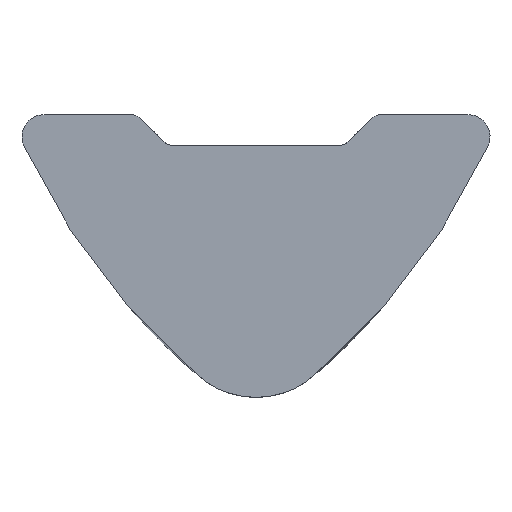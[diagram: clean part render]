
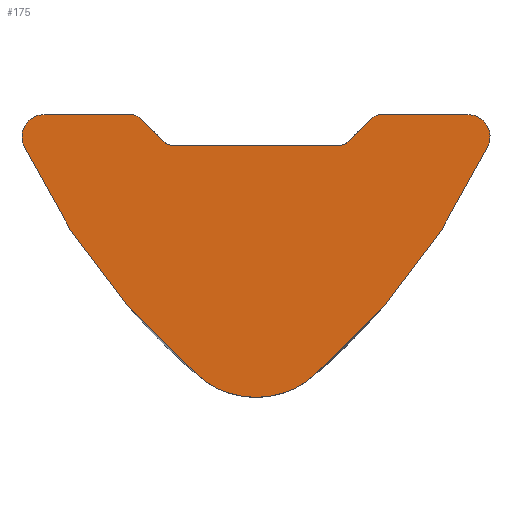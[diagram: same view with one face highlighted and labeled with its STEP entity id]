
A CAD part, front view. The second image highlights one B-rep face of the part: STEP entity #175.
In plain terms, the highlighted planar face has unit normal (0, -1, 0).
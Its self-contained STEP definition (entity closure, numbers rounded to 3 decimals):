
#131 = EDGE_CURVE( '', #337, #338, #339, .F. );
#145 = EDGE_CURVE( '', #361, #362, #363, .T. );
#151 = EDGE_CURVE( '', #372, #373, #374, .F. );
#153 = EDGE_CURVE( '', #338, #376, #377, .T. );
#155 = EDGE_CURVE( '', #362, #379, #380, .T. );
#175 = ADVANCED_FACE( '', ( #409 ), #410, .T. );
#181 = EDGE_CURVE( '', #376, #395, #418, .F. );
#183 = EDGE_CURVE( '', #395, #352, #420, .T. );
#193 = EDGE_CURVE( '', #379, #434, #435, .T. );
#197 = EDGE_CURVE( '', #440, #372, #441, .F. );
#207 = EDGE_CURVE( '', #373, #337, #454, .F. );
#209 = EDGE_CURVE( '', #352, #361, #456, .T. );
#229 = EDGE_CURVE( '', #467, #440, #486, .F. );
#231 = EDGE_CURVE( '', #434, #488, #489, .F. );
#247 = EDGE_CURVE( '', #488, #345, #508, .T. );
#263 = EDGE_CURVE( '', #345, #467, #524, .F. );
#337 = VERTEX_POINT( '', #598 );
#338 = VERTEX_POINT( '', #599 );
#339 = CIRCLE( '', #600, 0.5 );
#345 = VERTEX_POINT( '', #607 );
#352 = VERTEX_POINT( '', #616 );
#361 = VERTEX_POINT( '', #651 );
#362 = VERTEX_POINT( '', #652 );
#363 = LINE( '', #653, #654 );
#372 = VERTEX_POINT( '', #674 );
#373 = VERTEX_POINT( '', #675 );
#374 = CIRCLE( '', #676, 2. );
#376 = VERTEX_POINT( '', #679 );
#377 = LINE( '', #680, #681 );
#379 = VERTEX_POINT( '', #684 );
#380 = CIRCLE( '', #685, 0.3 );
#395 = VERTEX_POINT( '', #705 );
#409 = FACE_OUTER_BOUND( '', #734, .T. );
#410 = PLANE( '', #735 );
#418 = CIRCLE( '', #747, 0.3 );
#420 = LINE( '', #750, #751 );
#434 = VERTEX_POINT( '', #770 );
#435 = LINE( '', #771, #772 );
#440 = VERTEX_POINT( '', #778 );
#441 = CIRCLE( '', #779, 2. );
#454 = CIRCLE( '', #798, 15.373 );
#456 = CIRCLE( '', #801, 0.3 );
#467 = VERTEX_POINT( '', #817 );
#486 = CIRCLE( '', #852, 15.373 );
#488 = VERTEX_POINT( '', #855 );
#489 = CIRCLE( '', #856, 0.3 );
#508 = LINE( '', #887, #888 );
#524 = CIRCLE( '', #942, 0.5 );
#598 = CARTESIAN_POINT( '', ( -5.25, -4.5, -0.718 ) );
#599 = CARTESIAN_POINT( '', ( -4.8, -4.5, 0. ) );
#600 = AXIS2_PLACEMENT_3D( '', #1049, #1050, #1051 );
#607 = CARTESIAN_POINT( '', ( 4.8, -4.5, 0. ) );
#616 = CARTESIAN_POINT( '', ( -2.086, -4.5, -0.613 ) );
#651 = CARTESIAN_POINT( '', ( -1.874, -4.5, -0.7 ) );
#652 = CARTESIAN_POINT( '', ( 1.874, -4.5, -0.7 ) );
#653 = CARTESIAN_POINT( '', ( -1.874, -4.5, -0.7 ) );
#654 = VECTOR( '', #1073, 1000. );
#674 = CARTESIAN_POINT( '', ( 0., -4.5, -6.4 ) );
#675 = CARTESIAN_POINT( '', ( -1.357, -4.5, -5.869 ) );
#676 = AXIS2_PLACEMENT_3D( '', #1084, #1085, #1086 );
#679 = CARTESIAN_POINT( '', ( -2.825, -4.5, 0. ) );
#680 = CARTESIAN_POINT( '', ( -4.8, -4.5, 0. ) );
#681 = VECTOR( '', #1087, 1000. );
#684 = CARTESIAN_POINT( '', ( 2.086, -4.5, -0.613 ) );
#685 = AXIS2_PLACEMENT_3D( '', #1088, #1089, #1090 );
#705 = CARTESIAN_POINT( '', ( -2.613, -4.5, -0.087 ) );
#734 = EDGE_LOOP( '', ( #1127, #1128, #1129, #1130, #1131, #1132, #1133, #1134, #1135, #1136, #1137, #1138, #1139, #1140, #1141 ) );
#735 = AXIS2_PLACEMENT_3D( '', #1142, #1143, #1144 );
#747 = AXIS2_PLACEMENT_3D( '', #1149, #1150, #1151 );
#750 = CARTESIAN_POINT( '', ( -2.613, -4.5, -0.087 ) );
#751 = VECTOR( '', #1152, 1000. );
#770 = CARTESIAN_POINT( '', ( 2.613, -4.5, -0.087 ) );
#771 = CARTESIAN_POINT( '', ( 2.086, -4.5, -0.613 ) );
#772 = VECTOR( '', #1173, 1000. );
#778 = CARTESIAN_POINT( '', ( 1.357, -4.5, -5.869 ) );
#779 = AXIS2_PLACEMENT_3D( '', #1182, #1183, #1184 );
#798 = AXIS2_PLACEMENT_3D( '', #1198, #1199, #1200 );
#801 = AXIS2_PLACEMENT_3D( '', #1201, #1202, #1203 );
#817 = CARTESIAN_POINT( '', ( 5.25, -4.5, -0.718 ) );
#852 = AXIS2_PLACEMENT_3D( '', #1249, #1250, #1251 );
#855 = CARTESIAN_POINT( '', ( 2.825, -4.5, 0. ) );
#856 = AXIS2_PLACEMENT_3D( '', #1252, #1253, #1254 );
#887 = CARTESIAN_POINT( '', ( 2.825, -4.5, 0. ) );
#888 = VECTOR( '', #1274, 1000. );
#942 = AXIS2_PLACEMENT_3D( '', #1286, #1287, #1288 );
#1049 = CARTESIAN_POINT( '', ( -4.8, -4.5, -0.5 ) );
#1050 = DIRECTION( '', ( 0., -1., 0. ) );
#1051 = DIRECTION( '', ( 0., 0., -1. ) );
#1073 = DIRECTION( '', ( 1., 0., 0. ) );
#1084 = CARTESIAN_POINT( '', ( 0., -4.5, -4.4 ) );
#1085 = DIRECTION( '', ( 0., -1., 0. ) );
#1086 = DIRECTION( '', ( 0., 0., -1. ) );
#1087 = DIRECTION( '', ( 1., 0., 0. ) );
#1088 = CARTESIAN_POINT( '', ( 1.874, -4.5, -0.4 ) );
#1089 = DIRECTION( '', ( 0., -1., 0. ) );
#1090 = DIRECTION( '', ( 0., 0., -1. ) );
#1127 = ORIENTED_EDGE( '', *, *, #155, .F. );
#1128 = ORIENTED_EDGE( '', *, *, #145, .F. );
#1129 = ORIENTED_EDGE( '', *, *, #209, .F. );
#1130 = ORIENTED_EDGE( '', *, *, #183, .F. );
#1131 = ORIENTED_EDGE( '', *, *, #181, .F. );
#1132 = ORIENTED_EDGE( '', *, *, #153, .F. );
#1133 = ORIENTED_EDGE( '', *, *, #131, .F. );
#1134 = ORIENTED_EDGE( '', *, *, #207, .F. );
#1135 = ORIENTED_EDGE( '', *, *, #151, .F. );
#1136 = ORIENTED_EDGE( '', *, *, #197, .F. );
#1137 = ORIENTED_EDGE( '', *, *, #229, .F. );
#1138 = ORIENTED_EDGE( '', *, *, #263, .F. );
#1139 = ORIENTED_EDGE( '', *, *, #247, .F. );
#1140 = ORIENTED_EDGE( '', *, *, #231, .F. );
#1141 = ORIENTED_EDGE( '', *, *, #193, .F. );
#1142 = CARTESIAN_POINT( '', ( 0., -4.5, -2.382 ) );
#1143 = DIRECTION( '', ( 0., -1., 0. ) );
#1144 = DIRECTION( '', ( 0., 0., -1. ) );
#1149 = CARTESIAN_POINT( '', ( -2.825, -4.5, -0.3 ) );
#1150 = DIRECTION( '', ( 0., -1., 0. ) );
#1151 = DIRECTION( '', ( 0., 0., -1. ) );
#1152 = DIRECTION( '', ( 0.709, 0., -0.706 ) );
#1173 = DIRECTION( '', ( 0.709, 0., 0.706 ) );
#1182 = CARTESIAN_POINT( '', ( 0., -4.5, -4.4 ) );
#1183 = DIRECTION( '', ( 0., -1., 0. ) );
#1184 = DIRECTION( '', ( 0., 0., -1. ) );
#1198 = CARTESIAN_POINT( '', ( 8.687, -4.5, 5.769 ) );
#1199 = DIRECTION( '', ( 0., -1., 0. ) );
#1200 = DIRECTION( '', ( 0., 0., -1. ) );
#1201 = CARTESIAN_POINT( '', ( -1.874, -4.5, -0.4 ) );
#1202 = DIRECTION( '', ( 0., -1., 0. ) );
#1203 = DIRECTION( '', ( 0., 0., -1. ) );
#1249 = CARTESIAN_POINT( '', ( -8.687, -4.5, 5.769 ) );
#1250 = DIRECTION( '', ( 0., -1., 0. ) );
#1251 = DIRECTION( '', ( 0., 0., -1. ) );
#1252 = CARTESIAN_POINT( '', ( 2.825, -4.5, -0.3 ) );
#1253 = DIRECTION( '', ( 0., -1., 0. ) );
#1254 = DIRECTION( '', ( 0., 0., -1. ) );
#1274 = DIRECTION( '', ( 1., 0., 0. ) );
#1286 = CARTESIAN_POINT( '', ( 4.8, -4.5, -0.5 ) );
#1287 = DIRECTION( '', ( 0., -1., 0. ) );
#1288 = DIRECTION( '', ( 0., 0., -1. ) );
